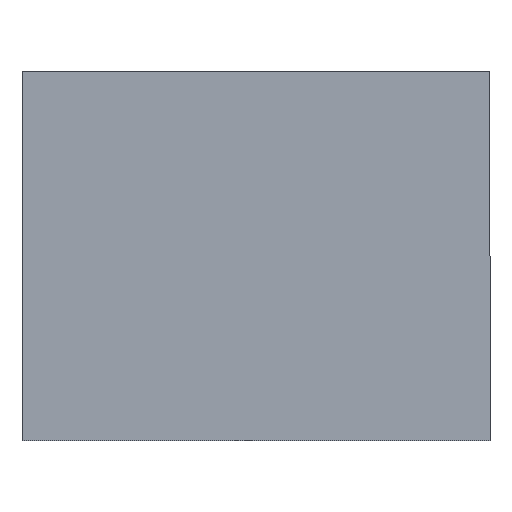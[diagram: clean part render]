
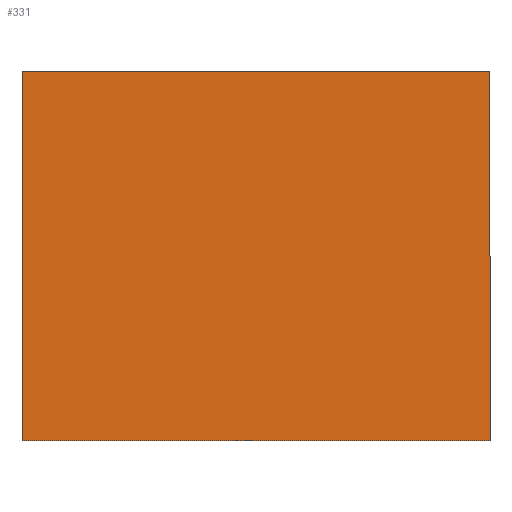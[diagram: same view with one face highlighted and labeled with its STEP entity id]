
A CAD part, left-side view. The second image highlights one B-rep face of the part: STEP entity #331.
In plain terms, the highlighted planar face has unit normal (-1, 0, 0).
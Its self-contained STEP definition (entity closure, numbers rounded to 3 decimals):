
#22 = VERTEX_POINT('',#23);
#23 = CARTESIAN_POINT('',(0.,0.,225.));
#32 = PLANE('',#33);
#33 = AXIS2_PLACEMENT_3D('',#34,#35,#36);
#34 = CARTESIAN_POINT('',(0.,0.,225.));
#35 = DIRECTION('',(0.,0.,1.));
#36 = DIRECTION('',(0.,1.,0.));
#44 = PLANE('',#45);
#45 = AXIS2_PLACEMENT_3D('',#46,#47,#48);
#46 = CARTESIAN_POINT('',(0.,0.,0.));
#47 = DIRECTION('',(0.,-1.,0.));
#48 = DIRECTION('',(0.,0.,1.));
#85 = VERTEX_POINT('',#86);
#86 = CARTESIAN_POINT('',(0.,285.,225.));
#100 = PLANE('',#101);
#101 = AXIS2_PLACEMENT_3D('',#102,#103,#104);
#102 = CARTESIAN_POINT('',(0.,285.,225.));
#103 = DIRECTION('',(0.,1.,0.));
#104 = DIRECTION('',(0.,0.,-1.));
#112 = EDGE_CURVE('',#22,#85,#113,.T.);
#113 = SURFACE_CURVE('',#114,(#118,#125),.PCURVE_S1.);
#114 = LINE('',#115,#116);
#115 = CARTESIAN_POINT('',(0.,0.,225.));
#116 = VECTOR('',#117,1.);
#117 = DIRECTION('',(0.,1.,0.));
#118 = PCURVE('',#32,#119);
#119 = DEFINITIONAL_REPRESENTATION('',(#120),#124);
#120 = LINE('',#121,#122);
#121 = CARTESIAN_POINT('',(0.,0.));
#122 = VECTOR('',#123,1.);
#123 = DIRECTION('',(1.,0.));
#124 = ( GEOMETRIC_REPRESENTATION_CONTEXT(2) 
PARAMETRIC_REPRESENTATION_CONTEXT() REPRESENTATION_CONTEXT('2D SPACE',''
  ) );
#125 = PCURVE('',#126,#131);
#126 = PLANE('',#127);
#127 = AXIS2_PLACEMENT_3D('',#128,#129,#130);
#128 = CARTESIAN_POINT('',(0.,142.5,112.5));
#129 = DIRECTION('',(-1.,-0.,0.));
#130 = DIRECTION('',(0.,0.,-1.));
#131 = DEFINITIONAL_REPRESENTATION('',(#132),#136);
#132 = LINE('',#133,#134);
#133 = CARTESIAN_POINT('',(-112.5,142.5));
#134 = VECTOR('',#135,1.);
#135 = DIRECTION('',(0.,-1.));
#136 = ( GEOMETRIC_REPRESENTATION_CONTEXT(2) 
PARAMETRIC_REPRESENTATION_CONTEXT() REPRESENTATION_CONTEXT('2D SPACE',''
  ) );
#166 = VERTEX_POINT('',#167);
#167 = CARTESIAN_POINT('',(0.,285.,0.));
#181 = PLANE('',#182);
#182 = AXIS2_PLACEMENT_3D('',#183,#184,#185);
#183 = CARTESIAN_POINT('',(0.,285.,0.));
#184 = DIRECTION('',(0.,0.,-1.));
#185 = DIRECTION('',(0.,-1.,0.));
#193 = EDGE_CURVE('',#85,#166,#194,.T.);
#194 = SURFACE_CURVE('',#195,(#199,#206),.PCURVE_S1.);
#195 = LINE('',#196,#197);
#196 = CARTESIAN_POINT('',(0.,285.,225.));
#197 = VECTOR('',#198,1.);
#198 = DIRECTION('',(0.,0.,-1.));
#199 = PCURVE('',#100,#200);
#200 = DEFINITIONAL_REPRESENTATION('',(#201),#205);
#201 = LINE('',#202,#203);
#202 = CARTESIAN_POINT('',(0.,0.));
#203 = VECTOR('',#204,1.);
#204 = DIRECTION('',(1.,0.));
#205 = ( GEOMETRIC_REPRESENTATION_CONTEXT(2) 
PARAMETRIC_REPRESENTATION_CONTEXT() REPRESENTATION_CONTEXT('2D SPACE',''
  ) );
#206 = PCURVE('',#126,#207);
#207 = DEFINITIONAL_REPRESENTATION('',(#208),#212);
#208 = LINE('',#209,#210);
#209 = CARTESIAN_POINT('',(-112.5,-142.5));
#210 = VECTOR('',#211,1.);
#211 = DIRECTION('',(1.,0.));
#212 = ( GEOMETRIC_REPRESENTATION_CONTEXT(2) 
PARAMETRIC_REPRESENTATION_CONTEXT() REPRESENTATION_CONTEXT('2D SPACE',''
  ) );
#242 = VERTEX_POINT('',#243);
#243 = CARTESIAN_POINT('',(0.,0.,0.));
#264 = EDGE_CURVE('',#166,#242,#265,.T.);
#265 = SURFACE_CURVE('',#266,(#270,#277),.PCURVE_S1.);
#266 = LINE('',#267,#268);
#267 = CARTESIAN_POINT('',(0.,285.,0.));
#268 = VECTOR('',#269,1.);
#269 = DIRECTION('',(0.,-1.,0.));
#270 = PCURVE('',#181,#271);
#271 = DEFINITIONAL_REPRESENTATION('',(#272),#276);
#272 = LINE('',#273,#274);
#273 = CARTESIAN_POINT('',(0.,0.));
#274 = VECTOR('',#275,1.);
#275 = DIRECTION('',(1.,0.));
#276 = ( GEOMETRIC_REPRESENTATION_CONTEXT(2) 
PARAMETRIC_REPRESENTATION_CONTEXT() REPRESENTATION_CONTEXT('2D SPACE',''
  ) );
#277 = PCURVE('',#126,#278);
#278 = DEFINITIONAL_REPRESENTATION('',(#279),#283);
#279 = LINE('',#280,#281);
#280 = CARTESIAN_POINT('',(112.5,-142.5));
#281 = VECTOR('',#282,1.);
#282 = DIRECTION('',(0.,1.));
#283 = ( GEOMETRIC_REPRESENTATION_CONTEXT(2) 
PARAMETRIC_REPRESENTATION_CONTEXT() REPRESENTATION_CONTEXT('2D SPACE',''
  ) );
#311 = EDGE_CURVE('',#242,#22,#312,.T.);
#312 = SURFACE_CURVE('',#313,(#317,#324),.PCURVE_S1.);
#313 = LINE('',#314,#315);
#314 = CARTESIAN_POINT('',(0.,0.,0.));
#315 = VECTOR('',#316,1.);
#316 = DIRECTION('',(0.,0.,1.));
#317 = PCURVE('',#44,#318);
#318 = DEFINITIONAL_REPRESENTATION('',(#319),#323);
#319 = LINE('',#320,#321);
#320 = CARTESIAN_POINT('',(0.,0.));
#321 = VECTOR('',#322,1.);
#322 = DIRECTION('',(1.,0.));
#323 = ( GEOMETRIC_REPRESENTATION_CONTEXT(2) 
PARAMETRIC_REPRESENTATION_CONTEXT() REPRESENTATION_CONTEXT('2D SPACE',''
  ) );
#324 = PCURVE('',#126,#325);
#325 = DEFINITIONAL_REPRESENTATION('',(#326),#330);
#326 = LINE('',#327,#328);
#327 = CARTESIAN_POINT('',(112.5,142.5));
#328 = VECTOR('',#329,1.);
#329 = DIRECTION('',(-1.,0.));
#330 = ( GEOMETRIC_REPRESENTATION_CONTEXT(2) 
PARAMETRIC_REPRESENTATION_CONTEXT() REPRESENTATION_CONTEXT('2D SPACE',''
  ) );
#331 = ADVANCED_FACE('',(#332),#126,.T.);
#332 = FACE_BOUND('',#333,.T.);
#333 = EDGE_LOOP('',(#334,#335,#336,#337));
#334 = ORIENTED_EDGE('',*,*,#112,.T.);
#335 = ORIENTED_EDGE('',*,*,#193,.T.);
#336 = ORIENTED_EDGE('',*,*,#264,.T.);
#337 = ORIENTED_EDGE('',*,*,#311,.T.);
